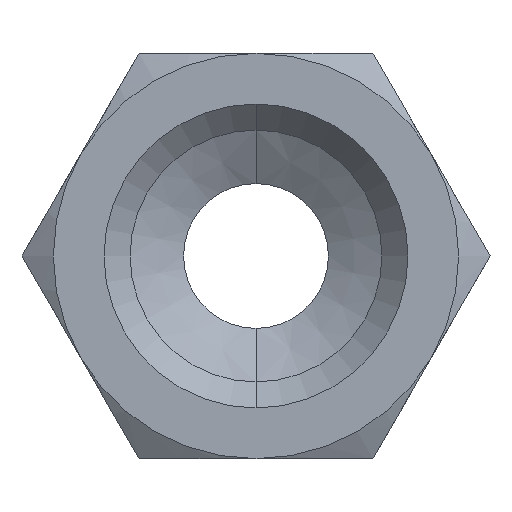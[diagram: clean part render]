
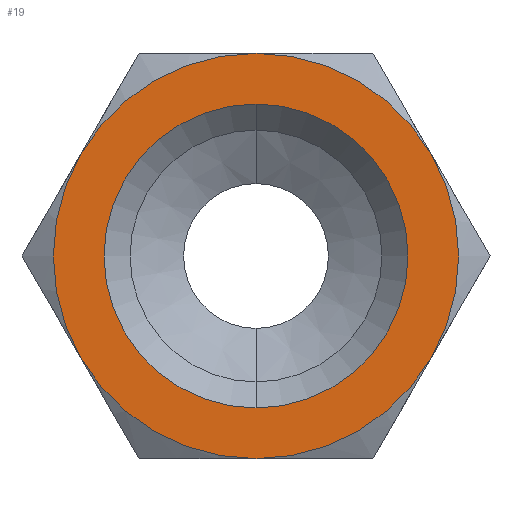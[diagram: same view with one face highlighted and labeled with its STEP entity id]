
A CAD part, front view. The second image highlights one B-rep face of the part: STEP entity #19.
In plain terms, the highlighted planar face has unit normal (0, -1, 0).
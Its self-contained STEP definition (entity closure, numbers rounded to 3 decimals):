
#19 = ADVANCED_FACE ( 'NONE', ( #1133, #1136 ), #635, .T. ) ;
#72 = DIRECTION ( 'NONE',  ( 0., 0., -1. ) ) ;
#78 = DIRECTION ( 'NONE',  ( 0., 0., -1. ) ) ;
#79 = DIRECTION ( 'NONE',  ( 0., -1., 0. ) ) ;
#80 = CARTESIAN_POINT ( 'NONE',  ( 0., 0., 0. ) ) ;
#101 = DIRECTION ( 'NONE',  ( 0., -1., 0. ) ) ;
#109 = CARTESIAN_POINT ( 'NONE',  ( -7.084, 0., 7.084 ) ) ;
#190 = CARTESIAN_POINT ( 'NONE',  ( 6.062, 0., -3.5 ) ) ;
#191 = CARTESIAN_POINT ( 'NONE',  ( 0., 0., 5.25 ) ) ;
#194 = CARTESIAN_POINT ( 'NONE',  ( 0., 0., -7. ) ) ;
#199 = CARTESIAN_POINT ( 'NONE',  ( 0., 0., -5.25 ) ) ;
#225 = CARTESIAN_POINT ( 'NONE',  ( -6.062, 0., -3.5 ) ) ;
#227 = DIRECTION ( 'NONE',  ( 0., 0., 1. ) ) ;
#228 = CARTESIAN_POINT ( 'NONE',  ( -6.062, 0., 3.5 ) ) ;
#229 = DIRECTION ( 'NONE',  ( 0., -1., 0. ) ) ;
#231 = CARTESIAN_POINT ( 'NONE',  ( 6.062, 0., 3.5 ) ) ;
#233 = CARTESIAN_POINT ( 'NONE',  ( 0., 0., 0. ) ) ;
#246 = CARTESIAN_POINT ( 'NONE',  ( 0., 0., 7. ) ) ;
#248 = DIRECTION ( 'NONE',  ( 0., 0., 1. ) ) ;
#249 = CARTESIAN_POINT ( 'NONE',  ( 0., 0., 0. ) ) ;
#305 = DIRECTION ( 'NONE',  ( 0., 0., 1. ) ) ;
#306 = DIRECTION ( 'NONE',  ( 0., -1., 0. ) ) ;
#307 = DIRECTION ( 'NONE',  ( 0., -1., 0. ) ) ;
#308 = CARTESIAN_POINT ( 'NONE',  ( 0., 0., 0. ) ) ;
#552 = DIRECTION ( 'NONE',  ( 0., 0., 1. ) ) ;
#553 = DIRECTION ( 'NONE',  ( 0., -1., 0. ) ) ;
#555 = CARTESIAN_POINT ( 'NONE',  ( 0., 0., 0. ) ) ;
#565 = DIRECTION ( 'NONE',  ( 0., 0., 1. ) ) ;
#566 = DIRECTION ( 'NONE',  ( 0., -1., 0. ) ) ;
#568 = CARTESIAN_POINT ( 'NONE',  ( 0., 0., 0. ) ) ;
#588 = DIRECTION ( 'NONE',  ( 0., 0., -1. ) ) ;
#589 = DIRECTION ( 'NONE',  ( 0., -1., 0. ) ) ;
#590 = CARTESIAN_POINT ( 'NONE',  ( 0., 0., 0. ) ) ;
#629 = DIRECTION ( 'NONE',  ( 0., 0., 1. ) ) ;
#632 = DIRECTION ( 'NONE',  ( 0., -1., 0. ) ) ;
#633 = CARTESIAN_POINT ( 'NONE',  ( 0., 0., 0. ) ) ;
#635 = PLANE ( 'NONE',  #751 ) ;
#660 = AXIS2_PLACEMENT_3D ( 'NONE', #308, #307, #305 ) ;
#664 = EDGE_CURVE ( 'NONE', #1116, #1297, #1053, .T. ) ;
#666 = EDGE_CURVE ( 'NONE', #1111, #1068, #1052, .T. ) ;
#690 = AXIS2_PLACEMENT_3D ( 'NONE', #555, #553, #552 ) ;
#692 = AXIS2_PLACEMENT_3D ( 'NONE', #568, #566, #565 ) ;
#695 = AXIS2_PLACEMENT_3D ( 'NONE', #590, #589, #588 ) ;
#696 = AXIS2_PLACEMENT_3D ( 'NONE', #633, #632, #629 ) ;
#700 = AXIS2_PLACEMENT_3D ( 'NONE', #80, #79, #78 ) ;
#707 = AXIS2_PLACEMENT_3D ( 'NONE', #233, #229, #227 ) ;
#708 = AXIS2_PLACEMENT_3D ( 'NONE', #249, #306, #248 ) ;
#749 = EDGE_CURVE ( 'NONE', #1354, #1353, #1029, .T. ) ;
#751 = AXIS2_PLACEMENT_3D ( 'NONE', #109, #101, #72 ) ;
#769 = EDGE_CURVE ( 'NONE', #1114, #1116, #1014, .T. ) ;
#779 = EDGE_CURVE ( 'NONE', #1353, #1354, #1007, .T. ) ;
#784 = EDGE_CURVE ( 'NONE', #1068, #1114, #1001, .T. ) ;
#786 = EDGE_CURVE ( 'NONE', #1297, #1340, #999, .T. ) ;
#839 = EDGE_CURVE ( 'NONE', #1340, #1111, #924, .T. ) ;
#906 = EDGE_LOOP ( 'NONE', ( #1256, #1048 ) ) ;
#924 = CIRCLE ( 'NONE', #660, 7. ) ;
#927 = ORIENTED_EDGE ( 'NONE', *, *, #666, .T. ) ;
#932 = EDGE_LOOP ( 'NONE', ( #1398, #963, #935, #1400, #927, #1280 ) ) ;
#935 = ORIENTED_EDGE ( 'NONE', *, *, #786, .T. ) ;
#963 = ORIENTED_EDGE ( 'NONE', *, *, #664, .T. ) ;
#999 = CIRCLE ( 'NONE', #690, 7. ) ;
#1001 = CIRCLE ( 'NONE', #692, 7. ) ;
#1007 = CIRCLE ( 'NONE', #695, 5.25 ) ;
#1014 = CIRCLE ( 'NONE', #696, 7. ) ;
#1029 = CIRCLE ( 'NONE', #700, 5.25 ) ;
#1048 = ORIENTED_EDGE ( 'NONE', *, *, #779, .F. ) ;
#1052 = CIRCLE ( 'NONE', #707, 7. ) ;
#1053 = CIRCLE ( 'NONE', #708, 7. ) ;
#1068 = VERTEX_POINT ( 'NONE', #246 ) ;
#1111 = VERTEX_POINT ( 'NONE', #231 ) ;
#1114 = VERTEX_POINT ( 'NONE', #228 ) ;
#1116 = VERTEX_POINT ( 'NONE', #225 ) ;
#1133 = FACE_BOUND ( 'NONE', #906, .T. ) ;
#1136 = FACE_OUTER_BOUND ( 'NONE', #932, .T. ) ;
#1256 = ORIENTED_EDGE ( 'NONE', *, *, #749, .F. ) ;
#1280 = ORIENTED_EDGE ( 'NONE', *, *, #784, .T. ) ;
#1297 = VERTEX_POINT ( 'NONE', #194 ) ;
#1340 = VERTEX_POINT ( 'NONE', #190 ) ;
#1353 = VERTEX_POINT ( 'NONE', #191 ) ;
#1354 = VERTEX_POINT ( 'NONE', #199 ) ;
#1398 = ORIENTED_EDGE ( 'NONE', *, *, #769, .T. ) ;
#1400 = ORIENTED_EDGE ( 'NONE', *, *, #839, .T. ) ;
